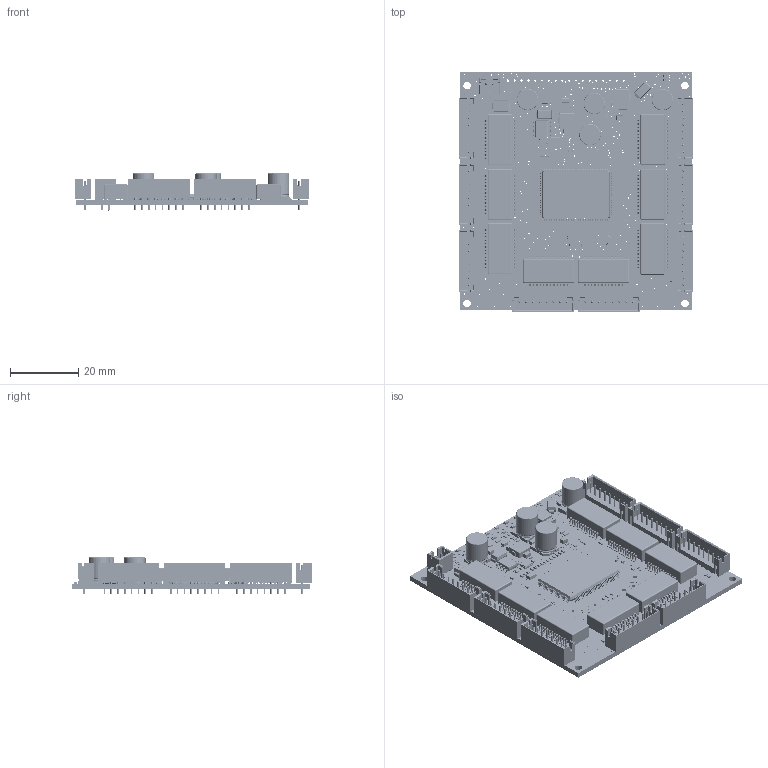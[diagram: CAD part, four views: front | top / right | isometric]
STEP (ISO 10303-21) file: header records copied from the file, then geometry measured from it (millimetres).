
FILE_DESCRIPTION(('Designed by EasyEDA Pro'),'2;1');
FILE_NAME('Open CASCADE Shape Model','2026-07-17T11:00:46',('Author'),( 'Open CASCADE'),'Open CASCADE STEP processor 7.8','Open CASCADE 7.8' ,'Unknown');
FILE_SCHEMA(('AUTOMOTIVE_DESIGN { 1 0 10303 214 1 1 1 1 }'));
Length unit declared in the file: millimetre
Products named in the file (1124): EasyEDA PCB Model~uYqL; Board~uYqL; TopCopper~uYqL; BottomCopper~uYqL; TopSilkscreen~uYqL; BottomSilkscreen~uYqL; TopFpcStiffener~uYqL; BottomFpcStiffener~uYqL; 0402~R0402_L1.0-W0.5-H0.4~0NO7; R13~0402~R0402_L1.0-W0.5-H0.4~WWT5; R23~0402~R0402_L1.0-W0.5-H0.4~zSwX; R24~0402~R0402_L1.0-W0.5-H0.4~9qmA; R25~0402~R0402_L1.0-W0.5-H0.4~UFPp; R9~0402~R0402_L1.0-W0.5-H0.4~mT4t; R1~0402~R0402_L1.0-W0.5-H0.4~cG4r; R35~0402~R0402_L1.0-W0.5-H0.4~PI82; R14~0402~R0402_L1.0-W0.5-H0.4~nq2S; R10~0402~R0402_L1.0-W0.5-H0.4~smSZ; R19~0402~R0402_L1.0-W0.5-H0.4~iiOR; R20~0402~R0402_L1.0-W0.5-H0.4~0K0a; R5~0402~R0402_L1.0-W0.5-H0.4~Wqmz; R6~0402~R0402_L1.0-W0.5-H0.4~PBuF; R72~0402~R0402_L1.0-W0.5-H0.4~pj7W; R16~0402~R0402_L1.0-W0.5-H0.4~jMPS; R17~0402~R0402_L1.0-W0.5-H0.4~jN7f; R18~0402~R0402_L1.0-W0.5-H0.4~fOZf; R21~0402~R0402_L1.0-W0.5-H0.4~uYOi; R204~0402~R0402_L1.0-W0.5-H0.4~Icbq; R4~0402~R0402_L1.0-W0.5-H0.4~4VZN; R11~0402~R0402_L1.0-W0.5-H0.4~Qatc; R29~0402~R0402_L1.0-W0.5-H0.4~nRlB; R39~0402~R0402_L1.0-W0.5-H0.4~XApF; R31~0402~R0402_L1.0-W0.5-H0.4~yV8A; R27~0402~R0402_L1.0-W0.5-H0.4~syc5; R32~0402~R0402_L1.0-W0.5-H0.4~mCHh; R30~0402~R0402_L1.0-W0.5-H0.4~2uh7; R53~0402~R0402_L1.0-W0.5-H0.4~0tqy; R34~0402~R0402_L1.0-W0.5-H0.4~FQib; R33~0402~R0402_L1.0-W0.5-H0.4~PTV1; R59~0402~R0402_L1.0-W0.5-H0.4~SpMs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
Assembly tree (1258 placements, depth 3):
  EasyEDA PCB Model~uYqL
    Board~uYqL
    TopCopper~uYqL
      TopCopper~uYqL
      TopCopper~uYqL
      TopCopper~uYqL
      TopCopper~uYqL
      TopCopper~uYqL
      TopCopper~uYqL
      TopCopper~uYqL
      TopCopper~uYqL
      TopCopper~uYqL
      TopCopper~uYqL
      TopCopper~uYqL
      TopCopper~uYqL
      TopCopper~uYqL
      TopCopper~uYqL
      TopCopper~uYqL
      TopCopper~uYqL
      TopCopper~uYqL
      TopCopper~uYqL
      TopCopper~uYqL
      TopCopper~uYqL
      TopCopper~uYqL
      TopCopper~uYqL
      TopCopper~uYqL
      TopCopper~uYqL
      TopCopper~uYqL
      TopCopper~uYqL
      TopCopper~uYqL
      TopCopper~uYqL
      TopCopper~uYqL
      TopCopper~uYqL
      TopCopper~uYqL
      TopCopper~uYqL
      TopCopper~uYqL
      TopCopper~uYqL
      TopCopper~uYqL
      TopCopper~uYqL
      TopCopper~uYqL
      TopCopper~uYqL
      TopCopper~uYqL
      TopCopper~uYqL
      TopCopper~uYqL
      TopCopper~uYqL
      TopCopper~uYqL
      TopCopper~uYqL
      TopCopper~uYqL
      TopCopper~uYqL
      TopCopper~uYqL
      TopCopper~uYqL
      TopCopper~uYqL
      TopCopper~uYqL
      TopCopper~uYqL
      TopCopper~uYqL
      TopCopper~uYqL
      TopCopper~uYqL
      TopCopper~uYqL
      TopCopper~uYqL
      TopCopper~uYqL
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Bounding box: 68.93 x 70.45 x 10.92 mm (x, y, z)
Volume: 14365.7 mm3; surface area: 28903.8 mm2
Topology: 598 solids, 1543 shells, 54957 faces, 208912 edges, 159036 vertices
Faces by surface type: plane 32446, bspline 16048, cylinder 5595, sphere 538, cone 264, torus 66
Full cylindrical faces by diameter (mm): 0.189 x1
Entity records: 917787 total; most frequent: CARTESIAN_POINT 209151, DIRECTION 111963, ORIENTED_EDGE 110812, EDGE_CURVE 86533, VERTEX_POINT 78320, LINE 70961, VECTOR 70961, AXIS2_PLACEMENT_3D 20501
